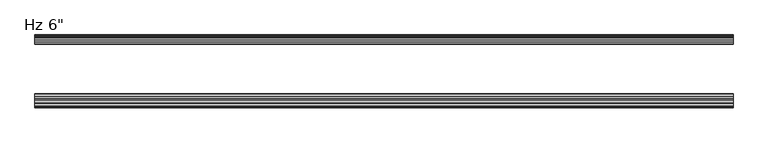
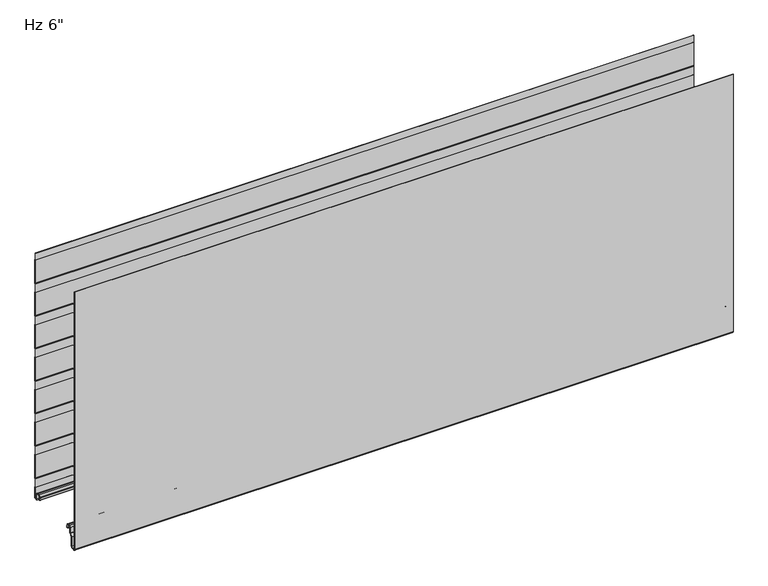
"""IFC4 building model written with IfcOpenShell, lengths in millimetres: plate geometry."""

from ifc_helpers import new_model, si_unit, point, frame, frame_2d, origin, place, context, project, spatial, polyline, circle_curve, trimmed, segment, composite_curve, outline, extrude, source, transform, mapped, element, save
from ifc_brep_helpers import plane_surface, cylinder_surface, revolved_surface, advanced_brep


def plate_ed9806c1(model_context):
    return source(origin(), model_context, "Body", "SolidModel", [
        extrude(outline(composite_curve([segment(trimmed(circle_curve(frame_2d((-148.8297491, -32.4521148)), 3.5702393), [point((-148.5184787, -36.0087592))], [point((-152.3999884, -32.4521125))], False, "CARTESIAN"), True, "CONTINUOUS"), segment(polyline([(-152.3999884, -32.4521125), (-152.3996024, 571.2), (-151.3993815, 571.2), (-151.3993815, -32.509446)]), True, "CONTINUOUS"), segment(trimmed(circle_curve(frame_2d((-148.8297816, -32.4521176)), 2.5702393), [point((-151.3993815, -32.509446))], [point((-148.605696, -35.0125699))], True, "CARTESIAN"), True, "CONTINUOUS"), segment(polyline([(-148.605696, -35.0125699), (-143.6238751, -34.5765709)]), True, "CONTINUOUS"), segment(trimmed(circle_curve(frame_2d((-144.1052657, -31.9198392)), 2.6999926), [point((-143.6238751, -34.5765709))], [point((-141.4052731, -31.9198392))], True, "CARTESIAN"), True, "CONTINUOUS"), segment(polyline([(-141.4052731, -31.9198392), (-141.4052731, -9.8247096), (-135.903202, -4.3226385)]), True, "CONTINUOUS"), segment(trimmed(circle_curve(frame_2d((-137.1052797, -3.1205608)), 1.6999946), [point((-135.903202, -4.3226385))], [point((-135.4052851, -3.1205608))], True, "CARTESIAN"), True, "CONTINUOUS"), segment(polyline([(-135.4052851, -3.1205608), (-135.4052851, 8.6903283)]), True, "CONTINUOUS"), segment(trimmed(circle_curve(frame_2d((-132.0552898, 8.6903283)), 3.3499953), [point((-135.4052851, 8.6903283))], [point((-132.0552898, 12.0403236))], False, "CARTESIAN"), True, "CONTINUOUS"), segment(polyline([(-132.0552898, 12.0403236), (-127.6552986, 12.0403236)]), True, "CONTINUOUS"), segment(trimmed(circle_curve(frame_2d((-127.6552986, 8.6903283)), 3.3499953), [point((-127.6552986, 12.0403236))], [point((-124.3053033, 8.6903283))], False, "CARTESIAN"), True, "CONTINUOUS"), segment(polyline([(-124.3053033, 8.6903283), (-124.3053033, 5.9912173), (-122.9068244, 5.9912173), (-122.9068244, 2.2328239)]), True, "CONTINUOUS"), segment(trimmed(circle_curve(frame_2d((-124.1068211, 2.2313092)), 1.1999976), [point((-122.9068244, 2.2328239))], [point((-124.0762992, 1.0316999))], False, "CARTESIAN"), True, "CONTINUOUS"), segment(trimmed(circle_curve(frame_2d((-124.1068211, 2.2313092)), 1.1999976), [point((-124.0762992, 1.0316999))], [point((-125.3053033, 2.1710221))], False, "CARTESIAN"), True, "CONTINUOUS"), segment(polyline([(-125.3053033, 2.1710221), (-125.3053033, 8.6903283)]), True, "CONTINUOUS"), segment(trimmed(circle_curve(frame_2d((-127.6552986, 8.6903283)), 2.3499953), [point((-125.3053033, 8.6903283))], [point((-127.6552986, 11.0403236))], True, "CARTESIAN"), True, "CONTINUOUS"), segment(polyline([(-127.6552986, 11.0403236), (-132.0552898, 11.0403236)]), True, "CONTINUOUS"), segment(trimmed(circle_curve(frame_2d((-132.0552898, 8.6903283)), 2.3499953), [point((-132.0552898, 11.0403236))], [point((-134.4052851, 8.6903283))], True, "CARTESIAN"), True, "CONTINUOUS"), segment(polyline([(-134.4052851, 8.6903283), (-134.4052851, -3.1205608)]), True, "CONTINUOUS"), segment(trimmed(circle_curve(frame_2d((-137.1052797, -3.1205608)), 2.6999946), [point((-134.4052851, -3.1205608))], [point((-135.1960952, -5.0297453))], False, "CARTESIAN"), True, "CONTINUOUS"), segment(polyline([(-135.1960952, -5.0297453), (-140.0245127, -9.8581627)]), True, "CONTINUOUS"), segment(trimmed(circle_curve(frame_2d((-139.1052757, -10.7773997)), 1.2999974), [point((-140.0245127, -9.8581627))], [point((-140.4052731, -10.7773997))], True, "CARTESIAN"), True, "CONTINUOUS"), segment(polyline([(-140.4052731, -10.7773997), (-140.4052731, -31.9198392)]), True, "CONTINUOUS"), segment(trimmed(circle_curve(frame_2d((-144.1052657, -31.9198392)), 3.6999926), [point((-140.4052731, -31.9198392))], [point((-143.4944646, -35.5690675))], False, "CARTESIAN"), True, "CONTINUOUS"), segment(polyline([(-143.4944646, -35.5690675), (-148.5184787, -36.0087592)]), True, "CONTINUOUS")], self_intersect=False)), frame((-730.0, 0.0, 0.0), z_axis=(1.0, 0.0, 0.0), x_axis=(0.0, 1.0, 0.0)), (0.0, 0.0, 1.0), 1460.0),
        advanced_brep(
        [(-730.0, -17.0015368, 2.0313088), (-730.0, -18.00154, 1.0313116), (-730.0, -19.0015314, 2.0313088), (-730.0, -19.0015314, 6.0315125), (-730.0, -18.0015368, 6.0315125), (-730.0, -18.0015368, 8.7237223), (-730.0, -14.7015411, 12.023718), (-730.0, -10.3015499, 12.023718), (-730.0, -7.0015544, 8.7237225), (-730.0, -7.0015544, -1.6962564), (-730.0, -5.2315602, -3.4662506), (-730.0, -1.0000126, -3.4662506), (-730.0, -1.0000126, 21.034026), (-730.0, -2.2002516, 22.4196686), (-730.0, -2.2002516, 41.7948349), (-730.0, -1.0000209, 43.1804679), (-730.0, -1.0000209, 97.2338833), (-730.0, -2.2002516, 98.6195162), (-730.0, -2.2002516, 117.9946825), (-730.0, -1.0000209, 119.3803155), (-730.0, -1.0000209, 173.4337309), (-730.0, -2.2002516, 174.8193638), (-730.0, -2.2002516, 194.1945301), (-730.0, -1.0000209, 195.5801631), (-730.0, -1.0000209, 249.6335785), (-730.0, -2.2002516, 251.0192114), (-730.0, -2.2002516, 270.3943777), (-730.0, -1.0000209, 271.7800107), (-730.0, -1.0000209, 325.8334261), (-730.0, -2.2002516, 327.219059), (-730.0, -2.2002516, 346.5942253), (-730.0, -1.0000209, 347.9798583), (-730.0, -1.0000209, 402.0332737), (-730.0, -2.2002516, 403.4189066), (-730.0, -2.2002516, 422.7940729), (-730.0, -1.0000209, 424.1797059), (-730.0, -1.0000209, 478.2331213), (-730.0, -2.2002516, 479.6187542), (-730.0, -2.2002516, 498.9939205), (-730.0, -1.0000209, 500.3795535), (-730.0, -1.0000209, 554.4329689), (-730.0, -2.2002516, 555.8186018), (-730.0, -2.2002516, 571.2), (-730.0, -1.2002516, 571.2), (-730.0, -1.2002516, 556.1914823), (-730.0, -0.3418094, 555.2004346), (-730.0, -2.09e-05, 554.2838177), (-730.0, -2.09e-05, 500.5287046), (-730.0, -0.3418094, 499.6120877), (-730.0, -1.2002516, 498.6210401), (-730.0, -1.2002516, 479.9916347), (-730.0, -0.3418094, 479.000587), (-730.0, -2.09e-05, 478.0839701), (-730.0, -2.09e-05, 424.328857), (-730.0, -0.3418094, 423.4122401), (-730.0, -1.2002516, 422.4211925), (-730.0, -1.2002516, 403.7917871), (-730.0, -0.3418094, 402.8007394), (-730.0, -2.09e-05, 401.8841225), (-730.0, -2.09e-05, 348.1290094), (-730.0, -0.3418094, 347.2123925), (-730.0, -1.2002516, 346.2213449), (-730.0, -1.2002516, 327.5919395), (-730.0, -0.3418094, 326.6008918), (-730.0, -2.09e-05, 325.6842749), (-730.0, -2.09e-05, 271.9291618), (-730.0, -0.3418094, 271.0125449), (-730.0, -1.2002516, 270.0214973), (-730.0, -1.2002516, 251.3920919), (-730.0, -0.3418094, 250.4010442), (-730.0, -2.09e-05, 249.4844273), (-730.0, -2.09e-05, 195.7293142), (-730.0, -0.3418094, 194.8126973), (-730.0, -1.2002516, 193.8216497), (-730.0, -1.2002516, 175.1922443), (-730.0, -0.3418094, 174.2011966), (-730.0, -2.09e-05, 173.2845797), (-730.0, -2.09e-05, 119.5294666), (-730.0, -0.3418094, 118.6128497), (-730.0, -1.2002516, 117.6218021), (-730.0, -1.2002516, 98.9923967), (-730.0, -0.3418094, 98.001349), (-730.0, -2.09e-05, 97.0847321), (-730.0, -2.09e-05, 43.329619), (-730.0, -0.3418094, 42.4130021), (-730.0, -1.2002516, 41.4219545), (-730.0, -1.2002516, 22.7925491), (-730.0, -0.3418094, 21.8015014), (-730.0, -2.09e-05, 20.8847931), (-730.0, -1.26e-05, -3.0662545), (-730.0, -1.4000087, -4.4662506), (-730.0, -5.2315602, -4.4662506), (-730.0, -8.0015544, -1.6962564), (-730.0, -8.0015544, 8.7237225), (-730.0, -10.3015499, 11.023718), (-730.0, -14.7015411, 11.023718), (-730.0, -17.0015368, 8.7237223), (730.0, -17.0015368, 2.0313088), (730.0, -17.0015368, 8.7237223), (730.0, -14.7015411, 11.023718), (730.0, -10.3015499, 11.023718), (730.0, -8.0015544, 8.7237225), (730.0, -8.0015544, -1.6962564), (730.0, -5.2315602, -4.4662506), (730.0, -1.4000087, -4.4662506), (730.0, -1.26e-05, -3.0662545), (730.0, -1.26e-05, 20.8848845), (730.0, -0.3418094, 21.8015014), (730.0, -1.2002516, 22.7925491), (730.0, -1.2002516, 41.4219545), (730.0, -0.3418094, 42.4130021), (730.0, -2.09e-05, 43.329619), (730.0, -2.09e-05, 97.0847321), (730.0, -0.3418094, 98.001349), (730.0, -1.2002516, 98.9923967), (730.0, -1.2002516, 117.6218021), (730.0, -0.3418094, 118.6128497), (730.0, -2.09e-05, 119.5294666), (730.0, -2.09e-05, 173.2845797), (730.0, -0.3418094, 174.2011966), (730.0, -1.2002516, 175.1922443), (730.0, -1.2002516, 193.8216497), (730.0, -0.3418094, 194.8126973), (730.0, -2.09e-05, 195.7293142), (730.0, -2.09e-05, 249.4844273), (730.0, -0.3418094, 250.4010442), (730.0, -1.2002516, 251.3920919), (730.0, -1.2002516, 270.0214973), (730.0, -0.3418094, 271.0125449), (730.0, -2.09e-05, 271.9291618), (730.0, -2.09e-05, 325.6842749), (730.0, -0.3418094, 326.6008918), (730.0, -1.2002516, 327.5919395), (730.0, -1.2002516, 346.2213449), (730.0, -0.3418094, 347.2123925), (730.0, -2.09e-05, 348.1290094), (730.0, -2.09e-05, 401.8841225), (730.0, -0.3418094, 402.8007394), (730.0, -1.2002516, 403.7917871), (730.0, -1.2002516, 422.4211925), (730.0, -0.3418094, 423.4122401), (730.0, -2.09e-05, 424.328857), (730.0, -2.09e-05, 478.0839701), (730.0, -0.3418094, 479.000587), (730.0, -1.2002516, 479.9916347), (730.0, -1.2002516, 498.6210401), (730.0, -0.3418094, 499.6120877), (730.0, -2.09e-05, 500.5287046), (730.0, -2.09e-05, 554.2838177), (730.0, -0.3418094, 555.2004346), (730.0, -1.2002516, 556.1914823), (730.0, -1.2002516, 571.2), (730.0, -2.2002516, 571.2), (730.0, -2.2002516, 555.8186018), (730.0, -1.0000209, 554.4329689), (730.0, -1.0000209, 500.3795535), (730.0, -2.2002516, 498.9939205), (730.0, -2.2002516, 479.6187542), (730.0, -1.0000209, 478.2331213), (730.0, -1.0000209, 424.1797059), (730.0, -2.2002516, 422.7940729), (730.0, -2.2002516, 403.4189066), (730.0, -1.0000209, 402.0332737), (730.0, -1.0000209, 347.9798583), (730.0, -2.2002516, 346.5942253), (730.0, -2.2002516, 327.219059), (730.0, -1.0000209, 325.8334261), (730.0, -1.0000209, 271.7800107), (730.0, -2.2002516, 270.3943777), (730.0, -2.2002516, 251.0192114), (730.0, -1.0000209, 249.6335785), (730.0, -1.0000209, 195.5801631), (730.0, -2.2002516, 194.1945301), (730.0, -2.2002516, 174.8193638), (730.0, -1.0000209, 173.4337309), (730.0, -1.0000209, 119.3803155), (730.0, -2.2002516, 117.9946825), (730.0, -2.2002516, 98.6195162), (730.0, -1.0000209, 97.2338833), (730.0, -1.0000209, 43.1804679), (730.0, -2.2002516, 41.7948349), (730.0, -2.2002516, 22.4196686), (730.0, -1.0000126, 21.034026), (730.0, -1.0000126, -3.4662506), (730.0, -5.2315602, -3.4662506), (730.0, -7.0015544, -1.6962564), (730.0, -7.0015544, 8.7237225), (730.0, -10.3015499, 12.023718), (730.0, -14.7015411, 12.023718), (730.0, -18.0015368, 8.7237223), (730.0, -18.0015368, 6.0315125), (730.0, -19.0015314, 6.0315125), (730.0, -19.0015314, 2.0313088), (730.0, -18.0015401, 1.0313116)],
        [
            (0, 1, circle_curve(frame((-730.0, -18.0015341, 2.0313088), z_axis=(-1.0, 0.0, 0.0), x_axis=(0.0, 0.0, 1.0)), 0.9999973)),
            (1, 2, circle_curve(frame((-730.0, -18.0015342, 2.0313088), z_axis=(-1.0, 0.0, 0.0), x_axis=(0.0, 0.0, 1.0)), 0.9999972)),
            (2, 3),
            (3, 4),
            (4, 5),
            (5, 6, circle_curve(frame((-730.0, -14.7015411, 8.7237223), z_axis=(-1.0, 0.0, 0.0), x_axis=(0.0, 0.0, 1.0)), 3.2999957)),
            (6, 7),
            (7, 8, circle_curve(frame((-730.0, -10.3015499, 8.7237225), z_axis=(-1.0, 0.0, 0.0), x_axis=(0.0, 0.0, 1.0)), 3.2999955)),
            (8, 9),
            (9, 10, circle_curve(frame((-730.0, -5.2315602, -1.6962564), z_axis=(1.0, 0.0, 0.0), x_axis=(0.0, 0.0, 1.0)), 1.7699942)),
            (10, 11),
            (11, 12),
            (12, 13),
            (13, 14),
            (14, 15),
            (15, 16),
            (16, 17),
            (17, 18),
            (18, 19),
            (19, 20),
            (20, 21),
            (21, 22),
            (22, 23),
            (23, 24),
            (24, 25),
            (25, 26),
            (26, 27),
            (27, 28),
            (28, 29),
            (29, 30),
            (30, 31),
            (31, 32),
            (32, 33),
            (33, 34),
            (34, 35),
            (35, 36),
            (36, 37),
            (37, 38),
            (38, 39),
            (39, 40),
            (40, 41),
            (41, 42),
            (42, 43),
            (43, 44),
            (44, 45),
            (45, 46, circle_curve(frame((-730.0, -1.4000181, 554.2838177), z_axis=(-1.0, 0.0, 0.0), x_axis=(0.0, 0.0, 1.0)), 1.3999972)),
            (46, 47),
            (47, 48, circle_curve(frame((-730.0, -1.4000181, 500.5287046), z_axis=(-1.0, 0.0, 0.0), x_axis=(0.0, 0.0, 1.0)), 1.3999972)),
            (48, 49),
            (49, 50),
            (50, 51),
            (51, 52, circle_curve(frame((-730.0, -1.4000181, 478.0839701), z_axis=(-1.0, 0.0, 0.0), x_axis=(0.0, 0.0, 1.0)), 1.3999972)),
            (52, 53),
            (53, 54, circle_curve(frame((-730.0, -1.4000181, 424.328857), z_axis=(-1.0, 0.0, 0.0), x_axis=(0.0, 0.0, 1.0)), 1.3999972)),
            (54, 55),
            (55, 56),
            (56, 57),
            (57, 58, circle_curve(frame((-730.0, -1.4000181, 401.8841225), z_axis=(-1.0, 0.0, 0.0), x_axis=(0.0, 0.0, 1.0)), 1.3999972)),
            (58, 59),
            (59, 60, circle_curve(frame((-730.0, -1.4000181, 348.1290094), z_axis=(-1.0, 0.0, 0.0), x_axis=(0.0, 0.0, 1.0)), 1.3999972)),
            (60, 61),
            (61, 62),
            (62, 63),
            (63, 64, circle_curve(frame((-730.0, -1.4000181, 325.6842749), z_axis=(-1.0, 0.0, 0.0), x_axis=(0.0, 0.0, 1.0)), 1.3999972)),
            (64, 65),
            (65, 66, circle_curve(frame((-730.0, -1.4000181, 271.9291618), z_axis=(-1.0, 0.0, 0.0), x_axis=(0.0, 0.0, 1.0)), 1.3999972)),
            (66, 67),
            (67, 68),
            (68, 69),
            (69, 70, circle_curve(frame((-730.0, -1.4000181, 249.4844273), z_axis=(-1.0, 0.0, 0.0), x_axis=(0.0, 0.0, 1.0)), 1.3999972)),
            (70, 71),
            (71, 72, circle_curve(frame((-730.0, -1.4000181, 195.7293142), z_axis=(-1.0, 0.0, 0.0), x_axis=(0.0, 0.0, 1.0)), 1.3999972)),
            (72, 73),
            (73, 74),
            (74, 75),
            (75, 76, circle_curve(frame((-730.0, -1.4000181, 173.2845797), z_axis=(-1.0, 0.0, 0.0), x_axis=(0.0, 0.0, 1.0)), 1.3999972)),
            (76, 77),
            (77, 78, circle_curve(frame((-730.0, -1.4000181, 119.5294666), z_axis=(-1.0, 0.0, 0.0), x_axis=(0.0, 0.0, 1.0)), 1.3999972)),
            (78, 79),
            (79, 80),
            (80, 81),
            (81, 82, circle_curve(frame((-730.0, -1.4000181, 97.0847321), z_axis=(-1.0, 0.0, 0.0), x_axis=(0.0, 0.0, 1.0)), 1.3999972)),
            (82, 83),
            (83, 84, circle_curve(frame((-730.0, -1.4000181, 43.329619), z_axis=(-1.0, 0.0, 0.0), x_axis=(0.0, 0.0, 1.0)), 1.3999972)),
            (84, 85),
            (85, 86),
            (86, 87),
            (87, 88, circle_curve(frame((-730.0, -1.4000181, 20.8848845), z_axis=(-1.0, 0.0, 0.0), x_axis=(0.0, 0.0, 1.0)), 1.3999972)),
            (88, 89),
            (89, 90, circle_curve(frame((-730.0, -1.4000087, -3.0662545), z_axis=(-1.0, 0.0, 0.0), x_axis=(0.0, 0.0, 1.0)), 1.3999962)),
            (90, 91),
            (91, 92, circle_curve(frame((-730.0, -5.2315602, -1.6962564), z_axis=(-1.0, 0.0, 0.0), x_axis=(0.0, 0.0, 1.0)), 2.7699942)),
            (92, 93),
            (93, 94, circle_curve(frame((-730.0, -10.3015499, 8.7237225), z_axis=(1.0, 0.0, 0.0), x_axis=(0.0, 0.0, 1.0)), 2.2999955)),
            (94, 95),
            (95, 96, circle_curve(frame((-730.0, -14.7015411, 8.7237223), z_axis=(1.0, 0.0, 0.0), x_axis=(0.0, 0.0, 1.0)), 2.2999957)),
            (96, 0),
            (97, 98),
            (98, 99, circle_curve(frame((730.0, -14.7015411, 8.7237223), z_axis=(-1.0, 0.0, 0.0), x_axis=(0.0, 0.0, 1.0)), 2.2999957)),
            (99, 100),
            (100, 101, circle_curve(frame((730.0, -10.3015499, 8.7237225), z_axis=(-1.0, 0.0, 0.0), x_axis=(0.0, 0.0, 1.0)), 2.2999955)),
            (101, 102),
            (102, 103, circle_curve(frame((730.0, -5.2315602, -1.6962564), z_axis=(1.0, 0.0, 0.0), x_axis=(0.0, 0.0, 1.0)), 2.7699942)),
            (103, 104),
            (104, 105, circle_curve(frame((730.0, -1.4000087, -3.0662545), z_axis=(1.0, 0.0, 0.0), x_axis=(0.0, 0.0, 1.0)), 1.3999962)),
            (105, 106),
            (106, 107, circle_curve(frame((730.0, -1.4000181, 20.8848845), z_axis=(1.0, 0.0, 0.0), x_axis=(0.0, 0.0, 1.0)), 1.3999972)),
            (107, 108),
            (108, 109),
            (109, 110),
            (110, 111, circle_curve(frame((730.0, -1.4000181, 43.329619), z_axis=(1.0, 0.0, 0.0), x_axis=(0.0, 0.0, 1.0)), 1.3999972)),
            (111, 112),
            (112, 113, circle_curve(frame((730.0, -1.4000181, 97.0847321), z_axis=(1.0, 0.0, 0.0), x_axis=(0.0, 0.0, 1.0)), 1.3999972)),
            (113, 114),
            (114, 115),
            (115, 116),
            (116, 117, circle_curve(frame((730.0, -1.4000181, 119.5294666), z_axis=(1.0, 0.0, 0.0), x_axis=(0.0, 0.0, 1.0)), 1.3999972)),
            (117, 118),
            (118, 119, circle_curve(frame((730.0, -1.4000181, 173.2845797), z_axis=(1.0, 0.0, 0.0), x_axis=(0.0, 0.0, 1.0)), 1.3999972)),
            (119, 120),
            (120, 121),
            (121, 122),
            (122, 123, circle_curve(frame((730.0, -1.4000181, 195.7293142), z_axis=(1.0, 0.0, 0.0), x_axis=(0.0, 0.0, 1.0)), 1.3999972)),
            (123, 124),
            (124, 125, circle_curve(frame((730.0, -1.4000181, 249.4844273), z_axis=(1.0, 0.0, 0.0), x_axis=(0.0, 0.0, 1.0)), 1.3999972)),
            (125, 126),
            (126, 127),
            (127, 128),
            (128, 129, circle_curve(frame((730.0, -1.4000181, 271.9291618), z_axis=(1.0, 0.0, 0.0), x_axis=(0.0, 0.0, 1.0)), 1.3999972)),
            (129, 130),
            (130, 131, circle_curve(frame((730.0, -1.4000181, 325.6842749), z_axis=(1.0, 0.0, 0.0), x_axis=(0.0, 0.0, 1.0)), 1.3999972)),
            (131, 132),
            (132, 133),
            (133, 134),
            (134, 135, circle_curve(frame((730.0, -1.4000181, 348.1290094), z_axis=(1.0, 0.0, 0.0), x_axis=(0.0, 0.0, 1.0)), 1.3999972)),
            (135, 136),
            (136, 137, circle_curve(frame((730.0, -1.4000181, 401.8841225), z_axis=(1.0, 0.0, 0.0), x_axis=(0.0, 0.0, 1.0)), 1.3999972)),
            (137, 138),
            (138, 139),
            (139, 140),
            (140, 141, circle_curve(frame((730.0, -1.4000181, 424.328857), z_axis=(1.0, 0.0, 0.0), x_axis=(0.0, 0.0, 1.0)), 1.3999972)),
            (141, 142),
            (142, 143, circle_curve(frame((730.0, -1.4000181, 478.0839701), z_axis=(1.0, 0.0, 0.0), x_axis=(0.0, 0.0, 1.0)), 1.3999972)),
            (143, 144),
            (144, 145),
            (145, 146),
            (146, 147, circle_curve(frame((730.0, -1.4000181, 500.5287046), z_axis=(1.0, 0.0, 0.0), x_axis=(0.0, 0.0, 1.0)), 1.3999972)),
            (147, 148),
            (148, 149, circle_curve(frame((730.0, -1.4000181, 554.2838177), z_axis=(1.0, 0.0, 0.0), x_axis=(0.0, 0.0, 1.0)), 1.3999972)),
            (149, 150),
            (150, 151),
            (151, 152),
            (152, 153),
            (153, 154),
            (154, 155),
            (155, 156),
            (156, 157),
            (157, 158),
            (158, 159),
            (159, 160),
            (160, 161),
            (161, 162),
            (162, 163),
            (163, 164),
            (164, 165),
            (165, 166),
            (166, 167),
            (167, 168),
            (168, 169),
            (169, 170),
            (170, 171),
            (171, 172),
            (172, 173),
            (173, 174),
            (174, 175),
            (175, 176),
            (176, 177),
            (177, 178),
            (178, 179),
            (179, 180),
            (180, 181),
            (181, 182),
            (182, 183),
            (183, 184),
            (184, 185, circle_curve(frame((730.0, -5.2315602, -1.6962564), z_axis=(-1.0, 0.0, 0.0), x_axis=(0.0, 0.0, 1.0)), 1.7699942)),
            (185, 186),
            (186, 187, circle_curve(frame((730.0, -10.3015499, 8.7237225), z_axis=(1.0, 0.0, 0.0), x_axis=(0.0, 0.0, 1.0)), 3.2999955)),
            (187, 188),
            (188, 189, circle_curve(frame((730.0, -14.7015411, 8.7237223), z_axis=(1.0, 0.0, 0.0), x_axis=(0.0, 0.0, 1.0)), 3.2999957)),
            (189, 190),
            (190, 191),
            (191, 192),
            (192, 193, circle_curve(frame((730.0, -18.0015342, 2.0313088), z_axis=(1.0, 0.0, 0.0), x_axis=(0.0, 0.0, 1.0)), 0.9999972)),
            (193, 97, circle_curve(frame((730.0, -18.0015341, 2.0313088), z_axis=(1.0, 0.0, 0.0), x_axis=(0.0, 0.0, 1.0)), 0.9999973)),
            (42, 152),
            (151, 43),
            (96, 98),
            (97, 0),
            (95, 99),
            (94, 100),
            (93, 101),
            (92, 102),
            (91, 103),
            (90, 104),
            (89, 105),
            (88, 106),
            (87, 107),
            (86, 108),
            (85, 109),
            (84, 110),
            (83, 111),
            (82, 112),
            (81, 113),
            (80, 114),
            (79, 115),
            (78, 116),
            (77, 117),
            (76, 118),
            (75, 119),
            (74, 120),
            (73, 121),
            (72, 122),
            (71, 123),
            (70, 124),
            (69, 125),
            (68, 126),
            (67, 127),
            (66, 128),
            (65, 129),
            (64, 130),
            (63, 131),
            (62, 132),
            (61, 133),
            (60, 134),
            (59, 135),
            (58, 136),
            (57, 137),
            (56, 138),
            (55, 139),
            (54, 140),
            (53, 141),
            (52, 142),
            (51, 143),
            (50, 144),
            (49, 145),
            (48, 146),
            (47, 147),
            (46, 148),
            (45, 149),
            (44, 150),
            (41, 153),
            (40, 154),
            (39, 155),
            (38, 156),
            (37, 157),
            (36, 158),
            (35, 159),
            (34, 160),
            (33, 161),
            (32, 162),
            (31, 163),
            (30, 164),
            (29, 165),
            (28, 166),
            (27, 167),
            (26, 168),
            (25, 169),
            (24, 170),
            (23, 171),
            (22, 172),
            (21, 173),
            (20, 174),
            (19, 175),
            (18, 176),
            (17, 177),
            (16, 178),
            (15, 179),
            (14, 180),
            (13, 181),
            (12, 182),
            (11, 183),
            (10, 184),
            (9, 185),
            (8, 186),
            (7, 187),
            (6, 188),
            (5, 189),
            (4, 190),
            (3, 191),
            (2, 192),
            (1, 193),
        ],
        [
            plane_surface(frame((-730.0, -2.09e-05, 457.2), z_axis=(-1.0, 0.0, 0.0), x_axis=(0.0, 1.0, 0.0))),
            plane_surface(frame((730.0, -2.09e-05, 457.2), z_axis=(1.0, 0.0, 0.0), x_axis=(0.0, 1.0, 0.0))),
            plane_surface(frame((730.0, 9.9999791, 571.2), z_axis=(0.0, 0.0, 1.0), x_axis=(-1.0, 0.0, 0.0))),
            plane_surface(frame((-730.0, -17.0015368, 2.0313088), z_axis=(0.0, 1.0, 0.0), x_axis=(1.0, 0.0, 0.0))),
            revolved_surface(polyline([(730.0, -14.7015411, 11.023718), (-730.0, -14.7015411, 11.023718)]), (-730.0, -14.7015411, 8.7237223), (1.0, 0.0, 0.0)),
            plane_surface(frame((-730.0, -14.7015411, 11.023718), z_axis=(0.0, 0.0, -1.0), x_axis=(1.0, 0.0, 0.0))),
            revolved_surface(polyline([(730.0, -10.3015499, 11.023717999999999), (-730.0, -10.3015499, 11.023717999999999)]), (-730.0, -10.3015499, 8.7237225), (1.0, 0.0, 0.0)),
            plane_surface(frame((-730.0, -8.0015544, 8.7237225), z_axis=(0.0, -1.0, 0.0), x_axis=(1.0, 0.0, 0.0))),
            cylinder_surface(frame((-730.0, -5.2315602, -1.6962564), z_axis=(-1.0, 0.0, 0.0), x_axis=(0.0, 0.0, 1.0)), 2.7699942),
            plane_surface(frame((-730.0, -5.2315602, -4.4662506), z_axis=(0.0, 0.0, -1.0), x_axis=(1.0, 0.0, 0.0))),
            cylinder_surface(frame((-730.0, -1.4000087, -3.0662545), z_axis=(-1.0, 0.0, 0.0), x_axis=(0.0, 0.0, 1.0)), 1.3999962),
            plane_surface(frame((-730.0, -1.26e-05, -3.0662545), z_axis=(0.0, 1.0, 0.0), x_axis=(1.0, 0.0, 0.0))),
            cylinder_surface(frame((-730.0, -1.4000181, 20.8848845), z_axis=(-1.0, 0.0, 0.0), x_axis=(0.0, 0.0, 1.0)), 1.3999972),
            plane_surface(frame((-730.0, -0.3418094, 21.8015014), z_axis=(0.0, 0.755864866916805, 0.6547276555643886), x_axis=(1.0, 0.0, 0.0))),
            plane_surface(frame((-730.0, -1.2002516, 32.1072518), z_axis=(0.0, 1.0, 0.0), x_axis=(1.0, 0.0, 0.0))),
            plane_surface(frame((-730.0, -1.2002516, 41.4219545), z_axis=(0.0, 0.755864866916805, -0.6547276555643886), x_axis=(1.0, 0.0, 0.0))),
            cylinder_surface(frame((-730.0, -1.4000181, 43.329619), z_axis=(-1.0, 0.0, 0.0), x_axis=(0.0, 0.0, 1.0)), 1.3999972),
            plane_surface(frame((-730.0, -2.09e-05, 43.329619), z_axis=(0.0, 1.0, 0.0), x_axis=(1.0, 0.0, 0.0))),
            cylinder_surface(frame((-730.0, -1.4000181, 97.0847321), z_axis=(-1.0, 0.0, 0.0), x_axis=(0.0, 0.0, 1.0)), 1.3999972),
            plane_surface(frame((-730.0, -0.3418094, 98.001349), z_axis=(0.0, 0.755864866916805, 0.6547276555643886), x_axis=(1.0, 0.0, 0.0))),
            plane_surface(frame((-730.0, -1.2002516, 108.3070994), z_axis=(0.0, 1.0, 0.0), x_axis=(1.0, 0.0, 0.0))),
            plane_surface(frame((-730.0, -1.2002516, 117.6218021), z_axis=(0.0, 0.755864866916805, -0.6547276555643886), x_axis=(1.0, 0.0, 0.0))),
            cylinder_surface(frame((-730.0, -1.4000181, 119.5294666), z_axis=(-1.0, 0.0, 0.0), x_axis=(0.0, 0.0, 1.0)), 1.3999972),
            plane_surface(frame((-730.0, -2.09e-05, 119.5294666), z_axis=(0.0, 1.0, 0.0), x_axis=(1.0, 0.0, 0.0))),
            cylinder_surface(frame((-730.0, -1.4000181, 173.2845797), z_axis=(-1.0, 0.0, 0.0), x_axis=(0.0, 0.0, 1.0)), 1.3999972),
            plane_surface(frame((-730.0, -0.3418094, 174.2011966), z_axis=(0.0, 0.755864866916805, 0.6547276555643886), x_axis=(1.0, 0.0, 0.0))),
            plane_surface(frame((-730.0, -1.2002516, 184.506947), z_axis=(0.0, 1.0, 0.0), x_axis=(1.0, 0.0, 0.0))),
            plane_surface(frame((-730.0, -1.2002516, 193.8216497), z_axis=(0.0, 0.755864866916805, -0.6547276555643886), x_axis=(1.0, 0.0, 0.0))),
            cylinder_surface(frame((-730.0, -1.4000181, 195.7293142), z_axis=(-1.0, 0.0, 0.0), x_axis=(0.0, 0.0, 1.0)), 1.3999972),
            plane_surface(frame((-730.0, -2.09e-05, 195.7293142), z_axis=(0.0, 1.0, 0.0), x_axis=(1.0, 0.0, 0.0))),
            cylinder_surface(frame((-730.0, -1.4000181, 249.4844273), z_axis=(-1.0, 0.0, 0.0), x_axis=(0.0, 0.0, 1.0)), 1.3999972),
            plane_surface(frame((-730.0, -0.3418094, 250.4010442), z_axis=(0.0, 0.755864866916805, 0.6547276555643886), x_axis=(1.0, 0.0, 0.0))),
            plane_surface(frame((-730.0, -1.2002516, 260.7067946), z_axis=(0.0, 1.0, 0.0), x_axis=(1.0, 0.0, 0.0))),
            plane_surface(frame((-730.0, -1.2002516, 270.0214973), z_axis=(0.0, 0.755864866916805, -0.6547276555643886), x_axis=(1.0, 0.0, 0.0))),
            cylinder_surface(frame((-730.0, -1.4000181, 271.9291618), z_axis=(-1.0, 0.0, 0.0), x_axis=(0.0, 0.0, 1.0)), 1.3999972),
            plane_surface(frame((-730.0, -2.09e-05, 271.9291618), z_axis=(0.0, 1.0, 0.0), x_axis=(1.0, 0.0, 0.0))),
            cylinder_surface(frame((-730.0, -1.4000181, 325.6842749), z_axis=(-1.0, 0.0, 0.0), x_axis=(0.0, 0.0, 1.0)), 1.3999972),
            plane_surface(frame((-730.0, -0.3418094, 326.6008918), z_axis=(0.0, 0.755864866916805, 0.6547276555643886), x_axis=(1.0, 0.0, 0.0))),
            plane_surface(frame((-730.0, -1.2002516, 336.9066422), z_axis=(0.0, 1.0, 0.0), x_axis=(1.0, 0.0, 0.0))),
            plane_surface(frame((-730.0, -1.2002516, 346.2213449), z_axis=(0.0, 0.755864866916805, -0.6547276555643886), x_axis=(1.0, 0.0, 0.0))),
            cylinder_surface(frame((-730.0, -1.4000181, 348.1290094), z_axis=(-1.0, 0.0, 0.0), x_axis=(0.0, 0.0, 1.0)), 1.3999972),
            plane_surface(frame((-730.0, -2.09e-05, 348.1290094), z_axis=(0.0, 1.0, 0.0), x_axis=(1.0, 0.0, 0.0))),
            cylinder_surface(frame((-730.0, -1.4000181, 401.8841225), z_axis=(-1.0, 0.0, 0.0), x_axis=(0.0, 0.0, 1.0)), 1.3999972),
            plane_surface(frame((-730.0, -0.3418094, 402.8007394), z_axis=(0.0, 0.755864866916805, 0.6547276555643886), x_axis=(1.0, 0.0, 0.0))),
            plane_surface(frame((-730.0, -1.2002516, 413.1064898), z_axis=(0.0, 1.0, 0.0), x_axis=(1.0, 0.0, 0.0))),
            plane_surface(frame((-730.0, -1.2002516, 422.4211925), z_axis=(0.0, 0.755864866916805, -0.6547276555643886), x_axis=(1.0, 0.0, 0.0))),
            cylinder_surface(frame((-730.0, -1.4000181, 424.328857), z_axis=(-1.0, 0.0, 0.0), x_axis=(0.0, 0.0, 1.0)), 1.3999972),
            plane_surface(frame((-730.0, -2.09e-05, 424.328857), z_axis=(0.0, 1.0, 0.0), x_axis=(1.0, 0.0, 0.0))),
            cylinder_surface(frame((-730.0, -1.4000181, 478.0839701), z_axis=(-1.0, 0.0, 0.0), x_axis=(0.0, 0.0, 1.0)), 1.3999972),
            plane_surface(frame((-730.0, -0.3418094, 479.000587), z_axis=(0.0, 0.755864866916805, 0.6547276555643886), x_axis=(1.0, 0.0, 0.0))),
            plane_surface(frame((-730.0, -1.2002516, 489.3063374), z_axis=(0.0, 1.0, 0.0), x_axis=(1.0, 0.0, 0.0))),
            plane_surface(frame((-730.0, -1.2002516, 498.6210401), z_axis=(0.0, 0.755864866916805, -0.6547276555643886), x_axis=(1.0, 0.0, 0.0))),
            cylinder_surface(frame((-730.0, -1.4000181, 500.5287046), z_axis=(-1.0, 0.0, 0.0), x_axis=(0.0, 0.0, 1.0)), 1.3999972),
            plane_surface(frame((-730.0, -2.09e-05, 500.5287046), z_axis=(0.0, 1.0, 0.0), x_axis=(1.0, 0.0, 0.0))),
            cylinder_surface(frame((-730.0, -1.4000181, 554.2838177), z_axis=(-1.0, 0.0, 0.0), x_axis=(0.0, 0.0, 1.0)), 1.3999972),
            plane_surface(frame((-730.0, -0.3418094, 555.2004346), z_axis=(0.0, 0.755864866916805, 0.6547276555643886), x_axis=(1.0, 0.0, 0.0))),
            plane_surface(frame((-730.0, -1.2002516, 565.506185), z_axis=(0.0, 1.0, 0.0), x_axis=(1.0, 0.0, 0.0))),
            plane_surface(frame((-730.0, -2.2002516, 575.1937681), z_axis=(0.0, -1.0, 0.0), x_axis=(1.0, 0.0, 0.0))),
            plane_surface(frame((-730.0, -2.2002516, 555.8186018), z_axis=(0.0, -0.755864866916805, -0.6547276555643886), x_axis=(1.0, 0.0, 0.0))),
            plane_surface(frame((-730.0, -1.0000209, 554.4329689), z_axis=(0.0, -1.0, 0.0), x_axis=(1.0, 0.0, 0.0))),
            plane_surface(frame((-730.0, -1.0000209, 500.3795535), z_axis=(0.0, -0.755864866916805, 0.6547276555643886), x_axis=(1.0, 0.0, 0.0))),
            plane_surface(frame((-730.0, -2.2002516, 498.9939205), z_axis=(0.0, -1.0, 0.0), x_axis=(1.0, 0.0, 0.0))),
            plane_surface(frame((-730.0, -2.2002516, 479.6187542), z_axis=(0.0, -0.755864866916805, -0.6547276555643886), x_axis=(1.0, 0.0, 0.0))),
            plane_surface(frame((-730.0, -1.0000209, 478.2331213), z_axis=(0.0, -1.0, 0.0), x_axis=(1.0, 0.0, 0.0))),
            plane_surface(frame((-730.0, -1.0000209, 424.1797059), z_axis=(0.0, -0.755864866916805, 0.6547276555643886), x_axis=(1.0, 0.0, 0.0))),
            plane_surface(frame((-730.0, -2.2002516, 422.7940729), z_axis=(0.0, -1.0, 0.0), x_axis=(1.0, 0.0, 0.0))),
            plane_surface(frame((-730.0, -2.2002516, 403.4189066), z_axis=(0.0, -0.755864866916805, -0.6547276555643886), x_axis=(1.0, 0.0, 0.0))),
            plane_surface(frame((-730.0, -1.0000209, 402.0332737), z_axis=(0.0, -1.0, 0.0), x_axis=(1.0, 0.0, 0.0))),
            plane_surface(frame((-730.0, -1.0000209, 347.9798583), z_axis=(0.0, -0.755864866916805, 0.6547276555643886), x_axis=(1.0, 0.0, 0.0))),
            plane_surface(frame((-730.0, -2.2002516, 346.5942253), z_axis=(0.0, -1.0, 0.0), x_axis=(1.0, 0.0, 0.0))),
            plane_surface(frame((-730.0, -2.2002516, 327.219059), z_axis=(0.0, -0.755864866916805, -0.6547276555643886), x_axis=(1.0, 0.0, 0.0))),
            plane_surface(frame((-730.0, -1.0000209, 325.8334261), z_axis=(0.0, -1.0, 0.0), x_axis=(1.0, 0.0, 0.0))),
            plane_surface(frame((-730.0, -1.0000209, 271.7800107), z_axis=(0.0, -0.755864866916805, 0.6547276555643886), x_axis=(1.0, 0.0, 0.0))),
            plane_surface(frame((-730.0, -2.2002516, 270.3943777), z_axis=(0.0, -1.0, 0.0), x_axis=(1.0, 0.0, 0.0))),
            plane_surface(frame((-730.0, -2.2002516, 251.0192114), z_axis=(0.0, -0.755864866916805, -0.6547276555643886), x_axis=(1.0, 0.0, 0.0))),
            plane_surface(frame((-730.0, -1.0000209, 249.6335785), z_axis=(0.0, -1.0, 0.0), x_axis=(1.0, 0.0, 0.0))),
            plane_surface(frame((-730.0, -1.0000209, 195.5801631), z_axis=(0.0, -0.755864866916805, 0.6547276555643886), x_axis=(1.0, 0.0, 0.0))),
            plane_surface(frame((-730.0, -2.2002516, 194.1945301), z_axis=(0.0, -1.0, 0.0), x_axis=(1.0, 0.0, 0.0))),
            plane_surface(frame((-730.0, -2.2002516, 174.8193638), z_axis=(0.0, -0.755864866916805, -0.6547276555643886), x_axis=(1.0, 0.0, 0.0))),
            plane_surface(frame((-730.0, -1.0000209, 173.4337309), z_axis=(0.0, -1.0, 0.0), x_axis=(1.0, 0.0, 0.0))),
            plane_surface(frame((-730.0, -1.0000209, 119.3803155), z_axis=(0.0, -0.755864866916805, 0.6547276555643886), x_axis=(1.0, 0.0, 0.0))),
            plane_surface(frame((-730.0, -2.2002516, 117.9946825), z_axis=(0.0, -1.0, 0.0), x_axis=(1.0, 0.0, 0.0))),
            plane_surface(frame((-730.0, -2.2002516, 98.6195162), z_axis=(0.0, -0.755864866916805, -0.6547276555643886), x_axis=(1.0, 0.0, 0.0))),
            plane_surface(frame((-730.0, -1.0000209, 97.2338833), z_axis=(0.0, -1.0, 0.0), x_axis=(1.0, 0.0, 0.0))),
            plane_surface(frame((-730.0, -1.0000209, 43.1804679), z_axis=(0.0, -0.755864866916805, 0.6547276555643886), x_axis=(1.0, 0.0, 0.0))),
            plane_surface(frame((-730.0, -2.2002516, 41.7948349), z_axis=(0.0, -1.0, 0.0), x_axis=(1.0, 0.0, 0.0))),
            plane_surface(frame((-730.0, -2.2002516, 22.4196686), z_axis=(0.0, -0.755864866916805, -0.6547276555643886), x_axis=(1.0, 0.0, 0.0))),
            plane_surface(frame((-730.0, -1.0000126, 21.034026), z_axis=(0.0, -1.0, 0.0), x_axis=(1.0, 0.0, 0.0))),
            plane_surface(frame((-730.0, -1.0000126, -3.4662506), z_axis=(0.0, 0.0, 1.0), x_axis=(1.0, 0.0, 0.0))),
            revolved_surface(polyline([(730.0, -5.2315602, 0.07373779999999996), (-730.0, -5.2315602, 0.07373779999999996)]), (-730.0, -5.2315602, -1.6962564), (1.0, 0.0, 0.0)),
            plane_surface(frame((-730.0, -7.0015544, -1.6962564), z_axis=(0.0, 1.0, 0.0), x_axis=(1.0, 0.0, 0.0))),
            cylinder_surface(frame((-730.0, -10.3015499, 8.7237225), z_axis=(-1.0, 0.0, 0.0), x_axis=(0.0, 0.0, 1.0)), 3.2999955),
            plane_surface(frame((-730.0, -10.3015499, 12.023718), z_axis=(0.0, 0.0, 1.0), x_axis=(1.0, 0.0, 0.0))),
            cylinder_surface(frame((-730.0, -14.7015411, 8.7237223), z_axis=(-1.0, 0.0, 0.0), x_axis=(0.0, 0.0, 1.0)), 3.2999957),
            plane_surface(frame((-730.0, -18.0015368, 8.7237223), z_axis=(0.0, -1.0, 0.0), x_axis=(1.0, 0.0, 0.0))),
            plane_surface(frame((-730.0, -18.0015368, 6.0315125), z_axis=(0.0, 0.0, 1.0), x_axis=(1.0, 0.0, 0.0))),
            plane_surface(frame((-730.0, -19.0015314, 6.0315125), z_axis=(0.0, -1.0, 0.0), x_axis=(1.0, 0.0, 0.0))),
            cylinder_surface(frame((-730.0, -18.0015342, 2.0313088), z_axis=(-1.0, 0.0, 0.0), x_axis=(0.0, 0.0, 1.0)), 0.9999972),
            cylinder_surface(frame((-730.0, -18.0015341, 2.0313088), z_axis=(-1.0, 0.0, 0.0), x_axis=(0.0, 0.0, 1.0)), 0.9999973),
        ],
        [
            (0, [[1, 2, 3, 4, 5, 6, 7, 8, 9, 10, 11, 12, 13, 14, 15, 16, 17, 18, 19, 20, 21, 22, 23, 24, 25, 26, 27, 28, 29, 30, 31, 32, 33, 34, 35, 36, 37, 38, 39, 40, 41, 42, 43, 44, 45, 46, 47, 48, 49, 50, 51, 52, 53, 54, 55, 56, 57, 58, 59, 60, 61, 62, 63, 64, 65, 66, 67, 68, 69, 70, 71, 72, 73, 74, 75, 76, 77, 78, 79, 80, 81, 82, 83, 84, 85, 86, 87, 88, 89, 90, 91, 92, 93, 94, 95, 96, 97]]),
            (1, [[98, 99, 100, 101, 102, 103, 104, 105, 106, 107, 108, 109, 110, 111, 112, 113, 114, 115, 116, 117, 118, 119, 120, 121, 122, 123, 124, 125, 126, 127, 128, 129, 130, 131, 132, 133, 134, 135, 136, 137, 138, 139, 140, 141, 142, 143, 144, 145, 146, 147, 148, 149, 150, 151, 152, 153, 154, 155, 156, 157, 158, 159, 160, 161, 162, 163, 164, 165, 166, 167, 168, 169, 170, 171, 172, 173, 174, 175, 176, 177, 178, 179, 180, 181, 182, 183, 184, 185, 186, 187, 188, 189, 190, 191, 192, 193, 194]]),
            (2, [[195, -152, 196, -43]]),
            (3, [[197, -98, 198, -97]]),
            (4, [[199, -99, -197, -96]]),
            (5, [[200, -100, -199, -95]]),
            (6, [[201, -101, -200, -94]]),
            (7, [[202, -102, -201, -93]]),
            (8, [[203, -103, -202, -92]]),
            (9, [[204, -104, -203, -91]]),
            (10, [[205, -105, -204, -90]]),
            (11, [[206, -106, -205, -89]]),
            (12, [[207, -107, -206, -88]]),
            (13, [[208, -108, -207, -87]]),
            (14, [[209, -109, -208, -86]]),
            (15, [[210, -110, -209, -85]]),
            (16, [[211, -111, -210, -84]]),
            (17, [[212, -112, -211, -83]]),
            (18, [[213, -113, -212, -82]]),
            (19, [[214, -114, -213, -81]]),
            (20, [[215, -115, -214, -80]]),
            (21, [[216, -116, -215, -79]]),
            (22, [[217, -117, -216, -78]]),
            (23, [[218, -118, -217, -77]]),
            (24, [[219, -119, -218, -76]]),
            (25, [[220, -120, -219, -75]]),
            (26, [[221, -121, -220, -74]]),
            (27, [[222, -122, -221, -73]]),
            (28, [[223, -123, -222, -72]]),
            (29, [[224, -124, -223, -71]]),
            (30, [[225, -125, -224, -70]]),
            (31, [[226, -126, -225, -69]]),
            (32, [[227, -127, -226, -68]]),
            (33, [[228, -128, -227, -67]]),
            (34, [[229, -129, -228, -66]]),
            (35, [[230, -130, -229, -65]]),
            (36, [[231, -131, -230, -64]]),
            (37, [[232, -132, -231, -63]]),
            (38, [[233, -133, -232, -62]]),
            (39, [[234, -134, -233, -61]]),
            (40, [[235, -135, -234, -60]]),
            (41, [[236, -136, -235, -59]]),
            (42, [[237, -137, -236, -58]]),
            (43, [[238, -138, -237, -57]]),
            (44, [[239, -139, -238, -56]]),
            (45, [[240, -140, -239, -55]]),
            (46, [[241, -141, -240, -54]]),
            (47, [[242, -142, -241, -53]]),
            (48, [[243, -143, -242, -52]]),
            (49, [[244, -144, -243, -51]]),
            (50, [[245, -145, -244, -50]]),
            (51, [[246, -146, -245, -49]]),
            (52, [[247, -147, -246, -48]]),
            (53, [[248, -148, -247, -47]]),
            (54, [[249, -149, -248, -46]]),
            (55, [[250, -150, -249, -45]]),
            (56, [[-44, -196, -151, -250]]),
            (57, [[-153, -195, -42, 251]]),
            (58, [[252, -154, -251, -41]]),
            (59, [[253, -155, -252, -40]]),
            (60, [[254, -156, -253, -39]]),
            (61, [[255, -157, -254, -38]]),
            (62, [[256, -158, -255, -37]]),
            (63, [[257, -159, -256, -36]]),
            (64, [[258, -160, -257, -35]]),
            (65, [[259, -161, -258, -34]]),
            (66, [[260, -162, -259, -33]]),
            (67, [[261, -163, -260, -32]]),
            (68, [[262, -164, -261, -31]]),
            (69, [[263, -165, -262, -30]]),
            (70, [[264, -166, -263, -29]]),
            (71, [[265, -167, -264, -28]]),
            (72, [[266, -168, -265, -27]]),
            (73, [[267, -169, -266, -26]]),
            (74, [[268, -170, -267, -25]]),
            (75, [[269, -171, -268, -24]]),
            (76, [[270, -172, -269, -23]]),
            (77, [[271, -173, -270, -22]]),
            (78, [[272, -174, -271, -21]]),
            (79, [[273, -175, -272, -20]]),
            (80, [[274, -176, -273, -19]]),
            (81, [[275, -177, -274, -18]]),
            (82, [[276, -178, -275, -17]]),
            (83, [[277, -179, -276, -16]]),
            (84, [[278, -180, -277, -15]]),
            (85, [[279, -181, -278, -14]]),
            (86, [[280, -182, -279, -13]]),
            (87, [[281, -183, -280, -12]]),
            (88, [[282, -184, -281, -11]]),
            (89, [[283, -185, -282, -10]]),
            (90, [[284, -186, -283, -9]]),
            (91, [[285, -187, -284, -8]]),
            (92, [[286, -188, -285, -7]]),
            (93, [[287, -189, -286, -6]]),
            (94, [[288, -190, -287, -5]]),
            (95, [[289, -191, -288, -4]]),
            (96, [[290, -192, -289, -3]]),
            (97, [[291, -193, -290, -2]]),
            (98, [[-198, -194, -291, -1]]),
        ],
    ),
    ])


if __name__ == "__main__":
    model = new_model("IFC4")
    model_context = context("Model", 3, world=origin())
    ifc_project = project(units=[si_unit("LENGTHUNIT", "METRE", prefix="MILLI")], contexts=[model_context])
    site = spatial("IfcSite", under=ifc_project)
    building = spatial("IfcBuilding", under=site)
    placement = place(None, origin())
    plate_shape = plate_ed9806c1(model_context)
    element("IfcPlate", 1, ObjectType="KIP-36-Karrier-KP-R19-CP-Hz-FL3-8in_SL : Hz 6\"", at=placement, inside=building, context=model_context, shape_type="MappedRepresentation", body=[
        mapped(plate_shape, transform((0.0, 0.0, 0.0), x_axis=(1.0, 0.0, 0.0), y_axis=(0.0, 1.0, 0.0), z_axis=(0.0, 0.0, 1.0))),
    ])
    save(model, "model.ifc")
